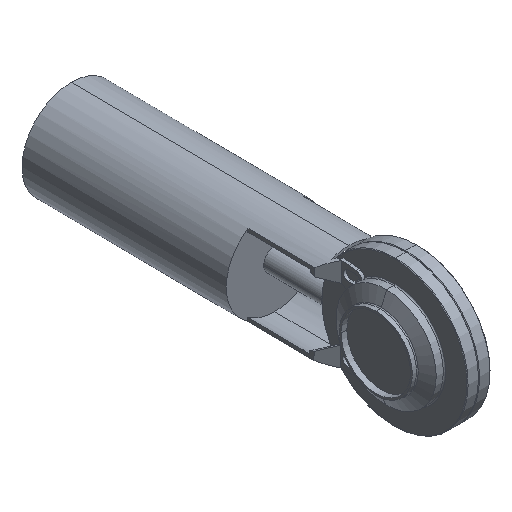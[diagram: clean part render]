
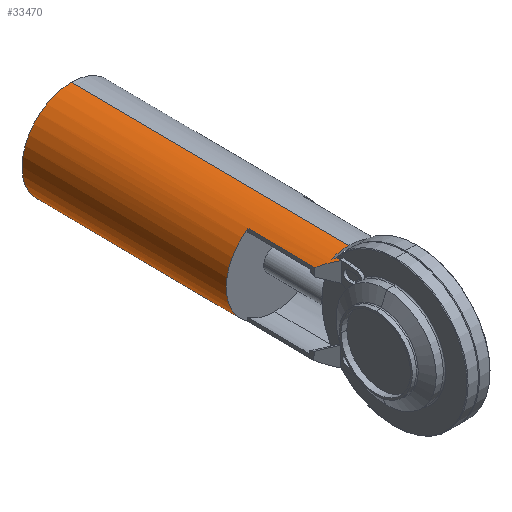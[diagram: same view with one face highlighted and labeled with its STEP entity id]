
A CAD part, isometric view. The second image highlights one B-rep face of the part: STEP entity #33470.
In plain terms, the highlighted cylindrical face has radius 42.5 mm (diameter 85 mm), a partial arc.
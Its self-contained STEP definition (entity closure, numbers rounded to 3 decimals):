
#990=CARTESIAN_POINT('',(-63.381,-188.914,
-44.596));
#1000=VERTEX_POINT('',#990);
#1030=CARTESIAN_POINT('',(-28.306,-212.914,
-44.596));
#1040=DIRECTION('',(0.,0.,1.));
#1050=DIRECTION('',(1.,0.,0.));
#1060=AXIS2_PLACEMENT_3D('',#1030,#1040,#1050);
#1070=CIRCLE('',#1060,42.5);
#1080=CARTESIAN_POINT('',(6.769,-188.914,
-44.596));
#1090=VERTEX_POINT('',#1080);
#1100=EDGE_CURVE('',#1090,#1000,#1070,.T.);
#6490=CARTESIAN_POINT('',(12.314,-200.414,
21.362));
#6500=VERTEX_POINT('',#6490);
#6530=CARTESIAN_POINT('',(-28.306,-212.914,
33.862));
#6540=DIRECTION('',(0.,-0.707,-0.707));
#6550=DIRECTION('',(0.,0.707,-0.707));
#6560=AXIS2_PLACEMENT_3D('',#6530,#6540,#6550);
#6570=ELLIPSE('',#6560,60.104,42.5);
#6580=CARTESIAN_POINT('',(11.437,-197.856,
18.804));
#6590=VERTEX_POINT('',#6580);
#6600=EDGE_CURVE('',#6590,#6500,#6570,.T.);
#7070=CARTESIAN_POINT('',(6.769,-188.914,
13.397));
#7080=VERTEX_POINT('',#7070);
#7360=CARTESIAN_POINT('',(6.769,-188.914,
-241.458));
#7370=DIRECTION('',(0.,0.,1.));
#7380=VECTOR('',#7370,1.);
#7390=LINE('',#7360,#7380);
#7400=EDGE_CURVE('',#1090,#7080,#7390,.T.);
#18810=CARTESIAN_POINT('',(-28.306,-212.914,
18.804));
#18820=DIRECTION('',(0.,0.,1.));
#18830=DIRECTION('',(1.,0.,0.));
#18840=AXIS2_PLACEMENT_3D('',#18810,#18820,#18830);
#18850=CIRCLE('',#18840,42.5);
#18860=CARTESIAN_POINT('',(14.194,-212.914,
18.804));
#18870=VERTEX_POINT('',#18860);
#18880=EDGE_CURVE('',#18870,#6590,#18850,.T.);
#21060=CARTESIAN_POINT('',(-68.926,-200.414,
31.352));
#21070=VERTEX_POINT('',#21060);
#21100=CARTESIAN_POINT('',(-68.926,-200.414,
-241.458));
#21110=DIRECTION('',(0.,0.,1.));
#21120=VECTOR('',#21110,1.);
#21130=LINE('',#21100,#21120);
#21140=CARTESIAN_POINT('',(-68.926,-200.414,
24.897));
#21150=VERTEX_POINT('',#21140);
#21160=EDGE_CURVE('',#21150,#21070,#21130,.T.);
#26910=CARTESIAN_POINT('',(12.314,-200.414,
-241.458));
#26920=DIRECTION('',(0.,0.,1.));
#26930=VECTOR('',#26920,1.);
#26940=LINE('',#26910,#26930);
#26950=CARTESIAN_POINT('',(12.314,-200.414,
24.897));
#26960=VERTEX_POINT('',#26950);
#26990=EDGE_CURVE('',#6500,#26960,#26940,.T.);
#27110=CARTESIAN_POINT('',(-28.306,-212.914,
37.397));
#27120=DIRECTION('',(0.,0.707,0.707));
#27130=DIRECTION('',(0.,-0.707,0.707));
#27140=AXIS2_PLACEMENT_3D('',#27110,#27120,#27130);
#27150=ELLIPSE('',#27140,60.104,42.5);
#27160=EDGE_CURVE('',#26960,#7080,#27150,.T.);
#32140=CARTESIAN_POINT('',(-63.381,-188.914,
-241.458));
#32150=DIRECTION('',(0.,0.,1.));
#32160=VECTOR('',#32150,1.);
#32170=LINE('',#32140,#32160);
#32180=CARTESIAN_POINT('',(-63.381,-188.914,
13.397));
#32190=VERTEX_POINT('',#32180);
#32200=EDGE_CURVE('',#1000,#32190,#32170,.T.);
#32580=CARTESIAN_POINT('',(-28.306,-212.914,
-44.596));
#32590=DIRECTION('',(0.,0.,1.));
#32600=DIRECTION('',(-1.,0.,0.));
#32610=AXIS2_PLACEMENT_3D('',#32580,#32590,#32600);
#32620=CYLINDRICAL_SURFACE('',#32610,42.5);
#32630=ORIENTED_EDGE('',*,*,#6600,.F.);
#32640=ORIENTED_EDGE('',*,*,#26990,.F.);
#32650=ORIENTED_EDGE('',*,*,#27160,.F.);
#32660=ORIENTED_EDGE('',*,*,#7400,.T.);
#32670=ORIENTED_EDGE('',*,*,#1100,.F.);
#32680=ORIENTED_EDGE('',*,*,#32200,.F.);
#32690=CARTESIAN_POINT('',(-28.306,-212.914,
37.397));
#32700=DIRECTION('',(0.,-0.707,-0.707));
#32710=DIRECTION('',(0.,-0.707,0.707));
#32720=AXIS2_PLACEMENT_3D('',#32690,#32700,#32710);
#32730=ELLIPSE('',#32720,60.104,42.5);
#32740=EDGE_CURVE('',#21150,#32190,#32730,.T.);
#32750=ORIENTED_EDGE('',*,*,#32740,.T.);
#32760=ORIENTED_EDGE('',*,*,#21160,.F.);
#32770=CARTESIAN_POINT('',(-28.306,-212.914,
387.871));
#32780=DIRECTION('',(-0.994,0.,0.113));
#32790=DIRECTION('',(-0.113,0.,-0.994));
#32800=AXIS2_PLACEMENT_3D('',#32770,#32780,#32790);
#32810=ELLIPSE('',#32800,375.431,42.5);
#32820=CARTESIAN_POINT('',(-69.45,-202.267,
26.749));
#32830=VERTEX_POINT('',#32820);
#32840=EDGE_CURVE('',#21070,#32830,#32810,.T.);
#32850=ORIENTED_EDGE('',*,*,#32840,.F.);
#32860=CARTESIAN_POINT('',(-28.306,-212.914,
37.397));
#32870=DIRECTION('',(0.,0.707,0.707));
#32880=DIRECTION('',(0.,0.707,-0.707));
#32890=AXIS2_PLACEMENT_3D('',#32860,#32870,#32880);
#32900=ELLIPSE('',#32890,60.104,42.5);
#32910=CARTESIAN_POINT('',(-69.613,-202.914,
27.397));
#32920=VERTEX_POINT('',#32910);
#32930=EDGE_CURVE('',#32830,#32920,#32900,.T.);
#32940=ORIENTED_EDGE('',*,*,#32930,.F.);
#32950=CARTESIAN_POINT('',(-69.613,-202.914,
-44.596));
#32960=DIRECTION('',(0.,0.,1.));
#32970=VECTOR('',#32960,1.);
#32980=LINE('',#32950,#32970);
#32990=CARTESIAN_POINT('',(-69.613,-202.914,
23.862));
#33000=VERTEX_POINT('',#32990);
#33010=EDGE_CURVE('',#33000,#32920,#32980,.T.);
#33020=ORIENTED_EDGE('',*,*,#33010,.T.);
#33030=CARTESIAN_POINT('',(-28.306,-212.914,
33.862));
#33040=DIRECTION('',(0.,-0.707,-0.707));
#33050=DIRECTION('',(0.,-0.707,0.707));
#33060=AXIS2_PLACEMENT_3D('',#33030,#33040,#33050);
#33070=ELLIPSE('',#33060,60.104,42.5);
#33080=CARTESIAN_POINT('',(-68.049,-197.856,
18.804));
#33090=VERTEX_POINT('',#33080);
#33100=EDGE_CURVE('',#33000,#33090,#33070,.T.);
#33110=ORIENTED_EDGE('',*,*,#33100,.F.);
#33120=CARTESIAN_POINT('',(-28.306,-212.914,
18.804));
#33130=DIRECTION('',(0.,0.,1.));
#33140=DIRECTION('',(-1.,0.,0.));
#33150=AXIS2_PLACEMENT_3D('',#33120,#33130,#33140);
#33160=CIRCLE('',#33150,42.5);
#33170=CARTESIAN_POINT('',(-70.806,-212.914,
18.804));
#33180=VERTEX_POINT('',#33170);
#33190=EDGE_CURVE('',#33090,#33180,#33160,.T.);
#33200=ORIENTED_EDGE('',*,*,#33190,.F.);
#33210=CARTESIAN_POINT('',(-70.806,-212.914,
-44.596));
#33220=DIRECTION('',(0.,0.,1.));
#33230=VECTOR('',#33220,1.);
#33240=LINE('',#33210,#33230);
#33250=CARTESIAN_POINT('',(-70.806,-212.914,
-222.052));
#33260=VERTEX_POINT('',#33250);
#33270=EDGE_CURVE('',#33260,#33180,#33240,.T.);
#33280=ORIENTED_EDGE('',*,*,#33270,.T.);
#33290=CARTESIAN_POINT('',(-28.306,-212.914,
-222.052));
#33300=DIRECTION('',(0.,0.,1.));
#33310=DIRECTION('',(-1.,0.,0.));
#33320=AXIS2_PLACEMENT_3D('',#33290,#33300,#33310);
#33330=CIRCLE('',#33320,42.5);
#33340=CARTESIAN_POINT('',(14.194,-212.914,
-222.052));
#33350=VERTEX_POINT('',#33340);
#33360=EDGE_CURVE('',#33350,#33260,#33330,.T.);
#33370=ORIENTED_EDGE('',*,*,#33360,.T.);
#33380=CARTESIAN_POINT('',(14.194,-212.914,
-44.596));
#33390=DIRECTION('',(0.,0.,1.));
#33400=VECTOR('',#33390,1.);
#33410=LINE('',#33380,#33400);
#33420=EDGE_CURVE('',#33350,#18870,#33410,.T.);
#33430=ORIENTED_EDGE('',*,*,#33420,.F.);
#33440=ORIENTED_EDGE('',*,*,#18880,.F.);
#33450=EDGE_LOOP('',(#33440,#33430,#33370,#33280,#33200,#33110,#33020,
#32940,#32850,#32760,#32750,#32680,#32670,#32660,#32650,#32640,#32630));
#33460=FACE_OUTER_BOUND('',#33450,.T.);
#33470=ADVANCED_FACE('',(#33460),#32620,.T.);
